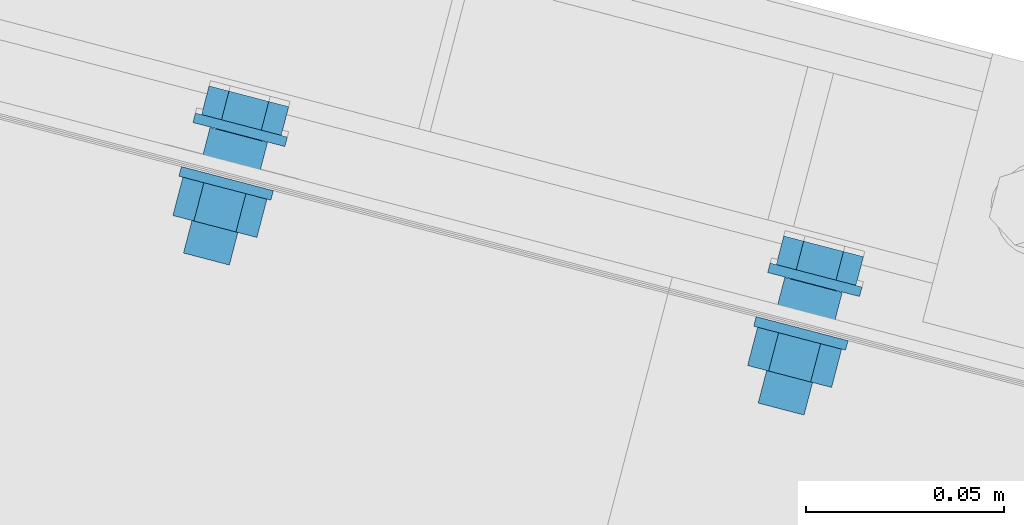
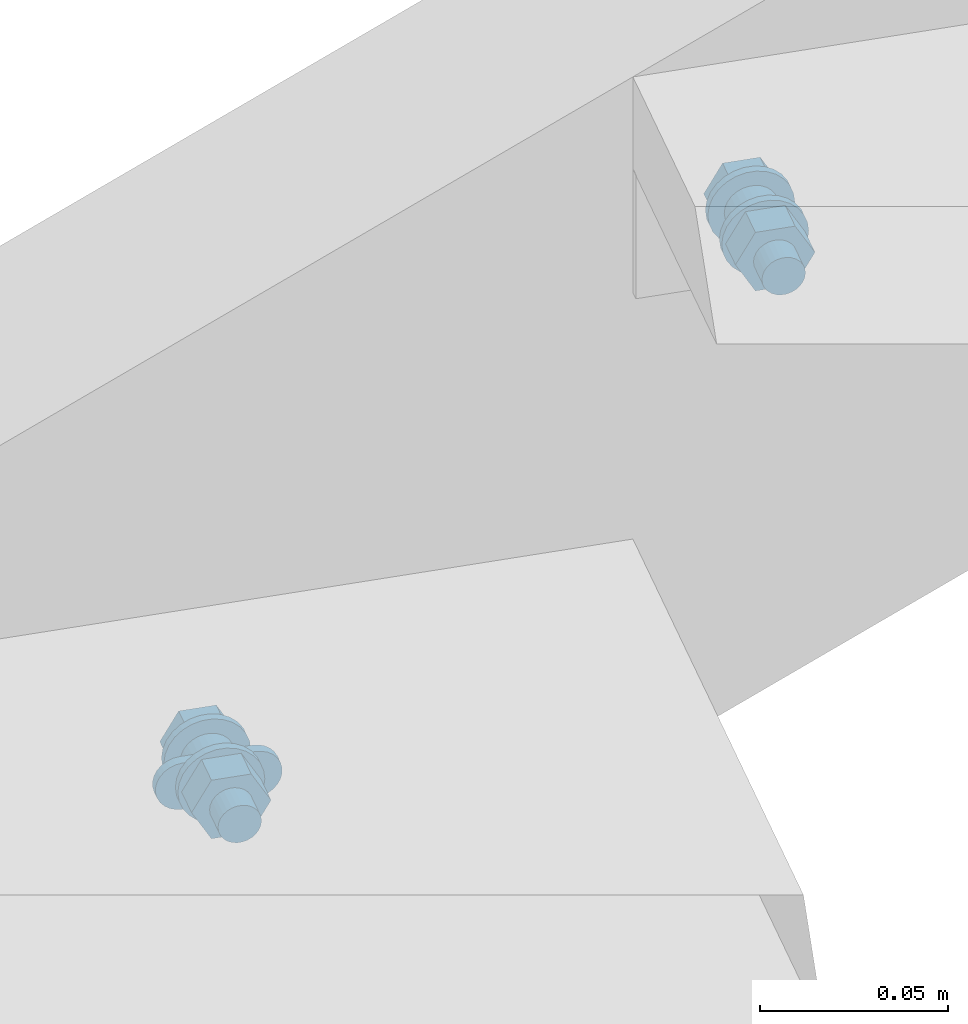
# One storey, part 153 of 169: 2 mechanical fasteners, 2 elements without a shape of their own.
"""IFC2X3 building model written with IfcOpenShell, lengths in millimetres."""

from ifc_helpers import new_model, si_unit, frame, frame_2d, origin_with_axes, origin_2d_with_axis, place, context, subcontext, project, spatial, polyline, circle_curve, parameter, trimmed, segment, composite_curve, circle, outline, extrude, source, transform, mapped, material, type_object, element, aggregate, save


model = new_model("IFC2X3")

# Units and contexts
model_context = context("Model", 3, precision=1e-05, world=origin_with_axes())
body_context = subcontext(model_context, "Body", "Model", "MODEL_VIEW")
ifc_project = project(units=[si_unit("LENGTHUNIT", "METRE", prefix="MILLI"), si_unit("AREAUNIT", "SQUARE_METRE"), si_unit("VOLUMEUNIT", "CUBIC_METRE"), si_unit("MASSUNIT", "GRAM", prefix="KILO"), si_unit("TIMEUNIT", "SECOND"), si_unit("PLANEANGLEUNIT", "RADIAN"), si_unit("SOLIDANGLEUNIT", "STERADIAN"), si_unit("THERMODYNAMICTEMPERATUREUNIT", "DEGREE_CELSIUS"), si_unit("LUMINOUSINTENSITYUNIT", "LUMEN")], contexts=[model_context])

# Site, building, storey
site_placement = place(None, origin_with_axes())
site = spatial("IfcSite", under=ifc_project, at=site_placement, Name="Undefined", CompositionType="ELEMENT")
building_placement = place(site_placement, origin_with_axes())
building = spatial("IfcBuilding", under=site, at=building_placement, Name="Undefined", CompositionType="ELEMENT")
storey_placement = place(building_placement, origin_with_axes())
storey = spatial("IfcBuildingStorey", under=building, at=storey_placement, Name="Undefined", CompositionType="ELEMENT", Elevation=0.0)

# Assembly, mechanical fastener
assembly_1_placement = place(storey_placement, origin_with_axes())
assembly_1 = element("IfcElementAssembly", 1, at=assembly_1_placement, inside=storey, Name="Steel Assembly", AssemblyPlace="NOTDEFINED", PredefinedType="RIGID_FRAME")
ifc_material = material(Name="Undefined")
discrete_accessory_type = type_object("IfcDiscreteAccessoryType", Name="Bolt assembly")
shared_shape_1 = source(origin_with_axes(), body_context, "Body", "SweptSolid", [
    extrude(circle(Radius=7.5, at=origin_2d_with_axis()), frame((0.0, -8.39999975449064, 0.0), z_axis=(0.0, 1.0, 0.0), x_axis=(1.0, 0.0, 0.0)), (0.0, 0.0, 1.0), 8.5),
    extrude(circle(Radius=7.5, at=origin_2d_with_axis()), frame((0.0, -0.100000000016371, 0.0), z_axis=(0.0, 1.0, 0.0), x_axis=(1.0, 0.0, 0.0)), (0.0, 0.0, 1.0), 3.1),
    extrude(outline(polyline([(10.39230484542, 0.0), (5.19615242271, 9.00000000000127), (-5.19615242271, 9.00000000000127), (-10.39230484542, 0.0), (-5.19615242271, -9.00000000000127), (5.19615242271, -9.00000000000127), (10.39230484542, 0.0)])), frame((0.0, -18.4999993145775, 0.0), z_axis=(0.0, 1.0, 0.0), x_axis=(1.0, 0.0, 0.0)), (0.0, 0.0, 1.0), 7.5),
    extrude(circle(Radius=6.0, at=origin_2d_with_axis()), frame((0.0, -10.9999999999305, 0.0), z_axis=(0.0, 1.0, 0.0), x_axis=(1.0, 0.0, 0.0)), (0.0, 0.0, 1.0), 35.0),
    extrude(circle(Radius=12.0, at=origin_2d_with_axis()), frame((0.0, -10.9999999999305, 0.0), z_axis=(0.0, 1.0, 0.0), x_axis=(1.0, 0.0, 0.0)), (0.0, 0.0, 1.0), 2.5),
    extrude(circle(Radius=12.0, at=origin_2d_with_axis()), frame((0.0, 2.99999999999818, 0.0), z_axis=(0.0, 1.0, 0.0), x_axis=(1.0, 0.0, 0.0)), (0.0, 0.0, 1.0), 2.5),
    extrude(outline(polyline([(10.96965511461, 0.0), (5.484827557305, 9.50000000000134), (-5.484827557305, 9.50000000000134), (-10.96965511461, 0.0), (-5.484827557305, -9.50000000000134), (5.484827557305, -9.50000000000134), (10.96965511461, 0.0)])), frame((0.0, 5.50000000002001, 0.0), z_axis=(0.0, 1.0, 0.0), x_axis=(1.0, 0.0, 0.0)), (0.0, 0.0, 1.0), 10.0),
])
mechanical_fastener_1_placement = place(assembly_1_placement, frame((-24953.7224191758, 8081.28190775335, 3800.09587438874), z_axis=(-2.54700353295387e-10, 0.0, -1.0), x_axis=(0.967580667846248, -0.252562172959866, 0.0)))
mechanical_fastener_1 = element("IfcMechanicalFastener", 2, at=mechanical_fastener_1_placement, type_object=discrete_accessory_type, material=ifc_material, Name="Bolt assembly", NominalDiameter=12.0, NominalLength=35.0, context=body_context, shape_type="MappedRepresentation", body=[
    mapped(shared_shape_1, transform((35.0000000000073, -1.23691279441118e-10, 25.0))),
])
aggregate(assembly_1, [mechanical_fastener_1])

assembly_2_placement = place(storey_placement, origin_with_axes())
assembly_2 = element("IfcElementAssembly", 3, at=assembly_2_placement, inside=storey, Name="Steel Assembly", AssemblyPlace="NOTDEFINED", PredefinedType="RIGID_FRAME")
shared_shape_2 = source(origin_with_axes(), body_context, "Body", "SweptSolid", [
    extrude(circle(Radius=7.5, at=origin_2d_with_axis()), frame((0.0, -8.39999975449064, 0.0), z_axis=(0.0, 1.0, 0.0), x_axis=(1.0, 0.0, 0.0)), (0.0, 0.0, 1.0), 8.5),
    extrude(outline(composite_curve([segment(polyline([(-10.0, 7.5), (10.0, 7.5)]), True, "CONTINUOUS"), segment(trimmed(circle_curve(frame_2d((10.0, 0.0), x_axis=(0.0, 1.0)), 7.5), [parameter(0.0)], [parameter(3.14159265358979)], False, "PARAMETER"), True, "CONTINUOUS"), segment(polyline([(10.0, -7.5), (-10.0, -7.5)]), True, "CONTINUOUS"), segment(trimmed(circle_curve(frame_2d((-10.0, 0.0), x_axis=(0.0, -1.0)), 7.5), [parameter(0.0)], [parameter(3.14159265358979)], False, "PARAMETER"), True, "DISCONTINUOUS")], self_intersect=False)), frame((0.0, -0.100000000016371, 0.0), z_axis=(0.0, 1.0, 0.0), x_axis=(1.0, 0.0, 0.0)), (0.0, 0.0, 1.0), 3.1),
    extrude(outline(polyline([(10.39230484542, 0.0), (5.19615242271, 9.00000000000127), (-5.19615242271, 9.00000000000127), (-10.39230484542, 0.0), (-5.19615242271, -9.00000000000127), (5.19615242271, -9.00000000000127), (10.39230484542, 0.0)])), frame((0.0, -18.4999993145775, 0.0), z_axis=(0.0, 1.0, 0.0), x_axis=(1.0, 0.0, 0.0)), (0.0, 0.0, 1.0), 7.5),
    extrude(circle(Radius=6.0, at=origin_2d_with_axis()), frame((0.0, -10.9999999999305, 0.0), z_axis=(0.0, 1.0, 0.0), x_axis=(1.0, 0.0, 0.0)), (0.0, 0.0, 1.0), 35.0),
    extrude(circle(Radius=12.0, at=origin_2d_with_axis()), frame((0.0, -10.9999999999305, 0.0), z_axis=(0.0, 1.0, 0.0), x_axis=(1.0, 0.0, 0.0)), (0.0, 0.0, 1.0), 2.5),
    extrude(circle(Radius=12.0, at=origin_2d_with_axis()), frame((0.0, 2.99999999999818, 0.0), z_axis=(0.0, 1.0, 0.0), x_axis=(1.0, 0.0, 0.0)), (0.0, 0.0, 1.0), 2.5),
    extrude(outline(polyline([(10.96965511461, 0.0), (5.484827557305, 9.50000000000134), (-5.484827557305, 9.50000000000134), (-10.96965511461, 0.0), (-5.484827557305, -9.50000000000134), (5.484827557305, -9.50000000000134), (10.96965511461, 0.0)])), frame((0.0, 5.50000000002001, 0.0), z_axis=(0.0, 1.0, 0.0), x_axis=(1.0, 0.0, 0.0)), (0.0, 0.0, 1.0), 10.0),
])
mechanical_fastener_2_placement = place(assembly_2_placement, frame((-25243.9966229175, 8157.05056056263, 3650.0958743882), z_axis=(-2.54700353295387e-10, 0.0, -1.0), x_axis=(0.967580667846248, -0.252562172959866, 0.0)))
mechanical_fastener_2 = element("IfcMechanicalFastener", 4, at=mechanical_fastener_2_placement, type_object=discrete_accessory_type, material=ifc_material, Name="Bolt assembly", NominalDiameter=12.0, NominalLength=35.0, context=body_context, shape_type="MappedRepresentation", body=[
    mapped(shared_shape_2, transform((185.00000000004, -6.51198206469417e-10, 25.0))),
])
aggregate(assembly_2, [mechanical_fastener_2])

save(model, "model.ifc")
